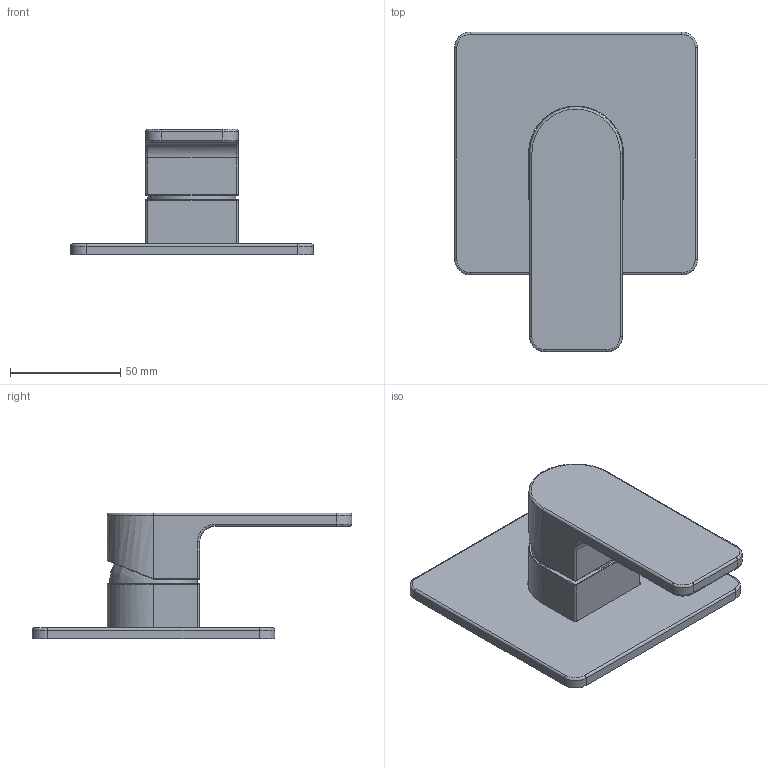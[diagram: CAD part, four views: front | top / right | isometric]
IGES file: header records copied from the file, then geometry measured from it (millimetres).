
Global section: file name: dbe8f491-6113-4ed8-9fa1-7cb6bf8140cf; native system: unknown; preprocessor: unknown; author: unknown; organization: unknown; date: 20191128.080656; units: millimetre
Bounding box: 110 x 145 x 57 mm (x, y, z)
Volume: 130524.2 mm3; surface area: 48808.2 mm2
Topology: 4 solids, 4 shells, 84 faces, 192 edges, 116 vertices
Faces by surface type: bspline 84
